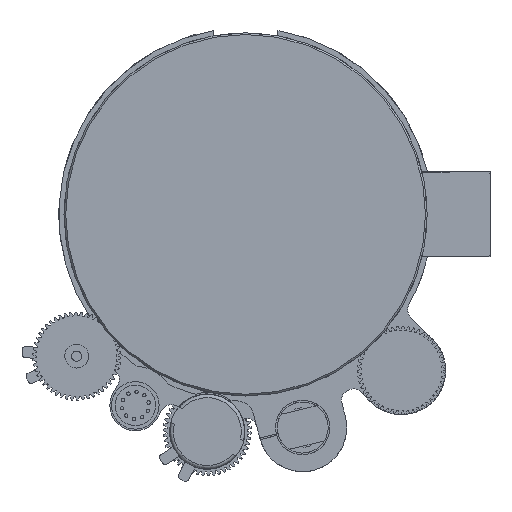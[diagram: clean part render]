
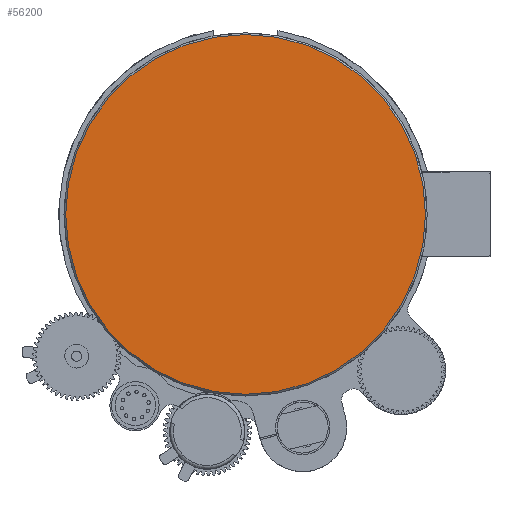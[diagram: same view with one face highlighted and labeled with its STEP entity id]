
A CAD part, left-side view. The second image highlights one B-rep face of the part: STEP entity #56200.
In plain terms, the highlighted planar face has unit normal (-1, 0, 0).
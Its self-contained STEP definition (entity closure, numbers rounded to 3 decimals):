
#219=PLANE('',#61333);
#1627=FACE_OUTER_BOUND('',#4632,.T.);
#4632=EDGE_LOOP('',(#38215));
#15061=CIRCLE('',#61334,53.);
#20498=VERTEX_POINT('',#92553);
#27131=EDGE_CURVE('',#20498,#20498,#15061,.T.);
#38215=ORIENTED_EDGE('',*,*,#27131,.F.);
#56200=ADVANCED_FACE('',(#1627),#219,.T.);
#61333=AXIS2_PLACEMENT_3D('',#92552,#73632,#73633);
#61334=AXIS2_PLACEMENT_3D('',#92554,#73634,#73635);
#73632=DIRECTION('center_axis',(-1.,0.,0.));
#73633=DIRECTION('ref_axis',(0.,0.,1.));
#73634=DIRECTION('center_axis',(1.,0.,0.));
#73635=DIRECTION('ref_axis',(0.,1.,0.));
#92552=CARTESIAN_POINT('Origin',(-30.588,56.219,0.));
#92553=CARTESIAN_POINT('',(-30.588,82.719,0.));
#92554=CARTESIAN_POINT('Origin',(-30.588,29.719,0.));
